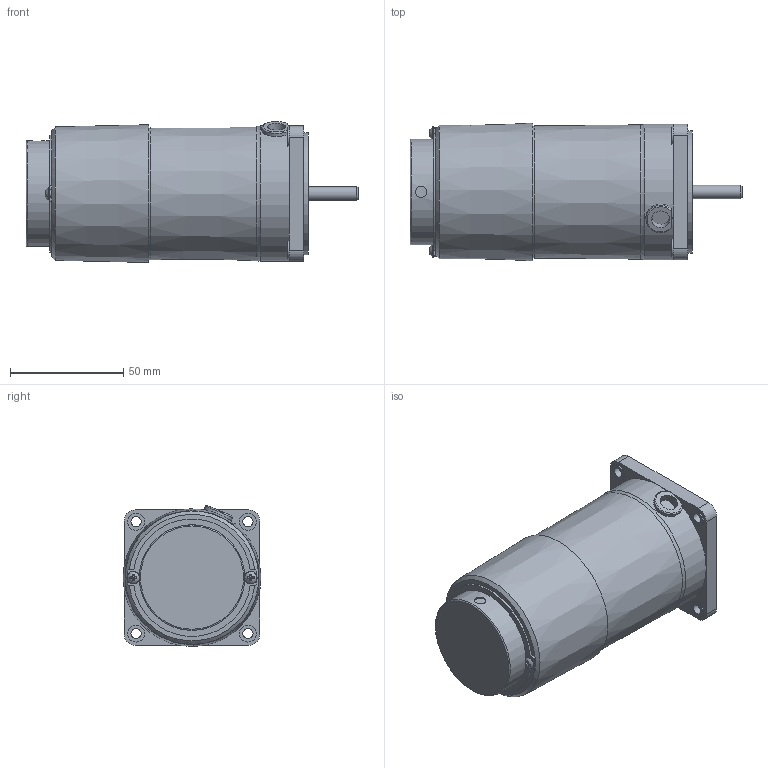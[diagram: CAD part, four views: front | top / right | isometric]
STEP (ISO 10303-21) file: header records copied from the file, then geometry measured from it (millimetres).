
FILE_DESCRIPTION(/* description */ (''),/* implementation_level */ '2;1');
FILE_NAME(/* name */ 'Y:\제품연구개발\3. 도면\3. 고객배포용\3D_홈페이지용\01-1 Standard AC SG Series\05-3 SPEED CONTROL ELECTROMAGNETIC BRAKE MOTOR(ES)\SG6R06_-ES12\SG6R06S-ES.stp',/* time_stamp */ '2023-11-28T13:12:22+09:00',/* author */ ('shyi1037'),/* organization */ (''),/* preprocessor_version */ 'ST-DEVELOPER v18.1',/* originating_system */ 'Autodesk Inventor 2022',/* authorisation */ '');
FILE_SCHEMA (('AUTOMOTIVE_DESIGN { 1 0 10303 214 3 1 1 }'));
Length unit declared in the file: millimetre
Products named in the file (1): S6R06S-ES
Bounding box: 146.9 x 60.93 x 62.38 mm (x, y, z)
Volume: 333959.6 mm3; surface area: 32954.5 mm2
Topology: 1 solids, 3 shells, 154 faces, 405 edges, 264 vertices
Faces by surface type: plane 91, cylinder 49, torus 7, cone 5, bspline 2
Full cylindrical faces by diameter (mm): 3 x2, 4.5 x4, 5 x1, 6 x1, 7.5 x4, 8 x1, 10.1 x1, 25 x1, 46.7 x1, 54 x1, 58.5 x1, 60 x1
Entity records: 5288 total; most frequent: CARTESIAN_POINT 1316, ORIENTED_EDGE 810, DIRECTION 809, EDGE_CURVE 405, AXIS2_PLACEMENT_3D 297, VERTEX_POINT 264, LINE 215, VECTOR 215
